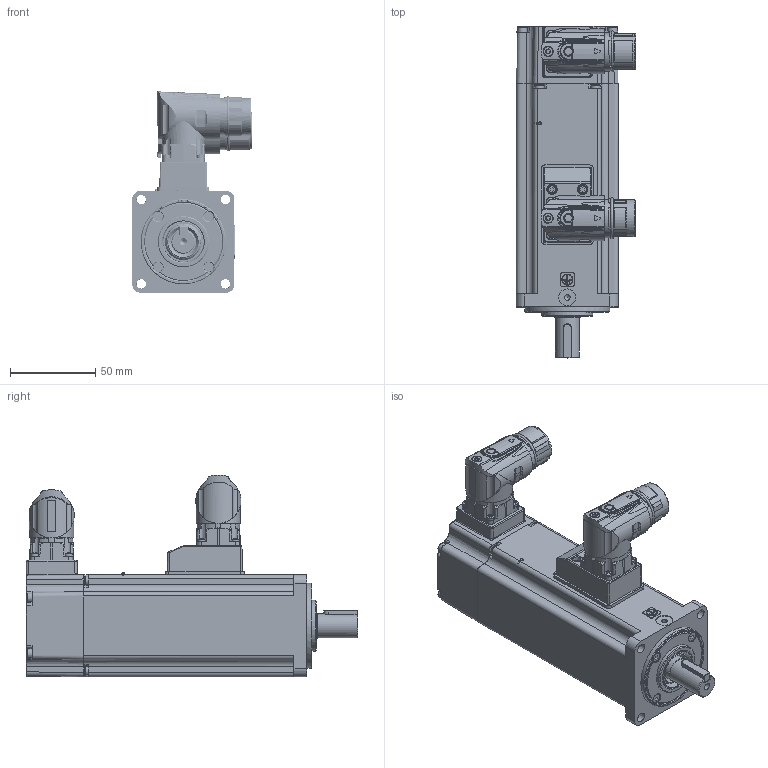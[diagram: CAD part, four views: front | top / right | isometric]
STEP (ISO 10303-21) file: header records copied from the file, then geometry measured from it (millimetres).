
FILE_DESCRIPTION(/* description */ ('AdapterTestApp'),/* implementation_level */ '2;1');
FILE_NAME(/* name */ 'TCE60 2B XX 3 A2 1 C2',/* time_stamp */ '2016-11-14T14:36:28+01:00',/* author */ ('AdapterTestApp'),/* organization */ ('Siemens PLM Software'),/* preprocessor_version */ 'ST-DEVELOPER v15.6',/* originating_system */ 'DEX',/* authorisation */ $);
FILE_SCHEMA (('AUTOMOTIVE_DESIGN {1 0 10303 214 3 1 1}'));
Products named in the file (1): TCE60 2B XX 3 A2 1 C2_vuoto
Bounding box: 70.16 x 195 x 118.5 mm (x, y, z)
Volume: 332196.1 mm3; surface area: 168735.2 mm2
Topology: 16 solids, 80 shells, 3134 faces, 8015 edges, 5156 vertices
Faces by surface type: plane 1467, cylinder 813, cone 302, bspline 249, torus 184, sphere 81, extrusion 38
Full cylindrical faces by diameter (mm): 1 x21, 1.2 x17, 1.4 x4, 1.5 x3, 2 x12, 2.013 x3, 2.2 x2, 2.459 x53, 2.5 x11, 2.6 x4, 2.65 x4, 2.7 x2, 2.8 x4, 3 x30, 3.2 x1, 3.242 x4, 3.4 x6, 3.5 x19, 4.134 x2, 4.4 x8, 4.5 x2, 4.7 x3, 5 x1, 5.5 x17, 5.8 x1, 5.9 x2, 6 x10, 6.5 x1, 6.8 x1, 8 x1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
Entity records: 106504 total; most frequent: CARTESIAN_POINT 36175, DIRECTION 14106, ORIENTED_EDGE 13998, EDGE_CURVE 6999, AXIS2_PLACEMENT_3D 5363, VERTEX_POINT 4846, FACE_BOUND 4139, EDGE_LOOP 4098
